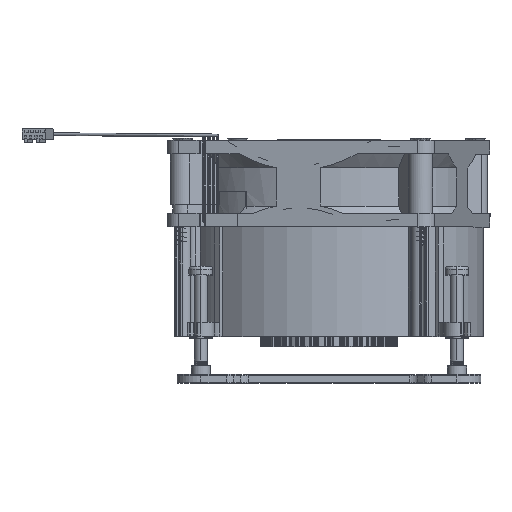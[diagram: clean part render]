
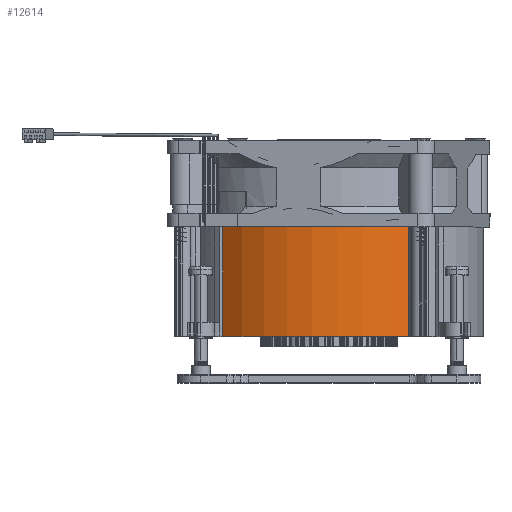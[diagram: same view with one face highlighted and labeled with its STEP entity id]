
A CAD part, top view. The second image highlights one B-rep face of the part: STEP entity #12614.
In plain terms, the highlighted cylindrical face has radius 45.1 mm (diameter 90.2 mm), a partial arc.
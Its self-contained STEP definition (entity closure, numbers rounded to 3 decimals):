
#269=CARTESIAN_POINT('',(1463.353,685.972,0.));
#270=DIRECTION('',(0.,-1.,0.));
#271=DIRECTION('',(0.515,0.,0.857));
#272=AXIS2_PLACEMENT_3D('',#269,#270,#271);
#1184=CARTESIAN_POINT('',(1463.353,717.972,0.));
#1185=DIRECTION('',(0.,-1.,0.));
#1186=DIRECTION('',(0.515,0.,0.857));
#1187=AXIS2_PLACEMENT_3D('',#1184,#1185,#1186);
#1868=DIRECTION('',(0.,-1.,0.));
#1869=VECTOR('',#1868,32.);
#1870=CARTESIAN_POINT('',(1486.581,717.972,38.659));
#1871=LINE('',#1870,#1869);
#1872=DIRECTION('',(0.,-1.,0.));
#1873=VECTOR('',#1872,32.);
#1874=CARTESIAN_POINT('',(1432.178,717.972,32.59));
#1875=LINE('',#1874,#1873);
#10080=CARTESIAN_POINT('',(1432.178,717.972,32.59));
#10081=CARTESIAN_POINT('',(1432.178,685.972,32.59));
#10082=VERTEX_POINT('',#10080);
#10083=VERTEX_POINT('',#10081);
#11186=CARTESIAN_POINT('',(1486.581,717.972,38.659));
#11187=CARTESIAN_POINT('',(1486.581,685.972,38.659));
#11188=VERTEX_POINT('',#11186);
#11189=VERTEX_POINT('',#11187);
#12600=CARTESIAN_POINT('',(1463.353,685.972,0.));
#12601=DIRECTION('',(0.,-1.,0.));
#12602=DIRECTION('',(1.,0.,0.));
#12603=AXIS2_PLACEMENT_3D('',#12600,#12601,#12602);
#12604=CYLINDRICAL_SURFACE('',#12603,45.1);
#12606=ORIENTED_EDGE('',*,*,#12605,.F.);
#12608=ORIENTED_EDGE('',*,*,#12607,.F.);
#12610=ORIENTED_EDGE('',*,*,#12609,.T.);
#12611=ORIENTED_EDGE('',*,*,#11306,.T.);
#12612=EDGE_LOOP('',(#12606,#12608,#12610,#12611));
#12613=FACE_OUTER_BOUND('',#12612,.F.);
#12614=ADVANCED_FACE('',(#12613),#12604,.T.);
#273=CIRCLE('',#272,45.1);
#1188=CIRCLE('',#1187,45.1);
#11306=EDGE_CURVE('',#11189,#10083,#273,.T.);
#12605=EDGE_CURVE('',#10082,#10083,#1875,.T.);
#12607=EDGE_CURVE('',#11188,#10082,#1188,.T.);
#12609=EDGE_CURVE('',#11188,#11189,#1871,.T.);
